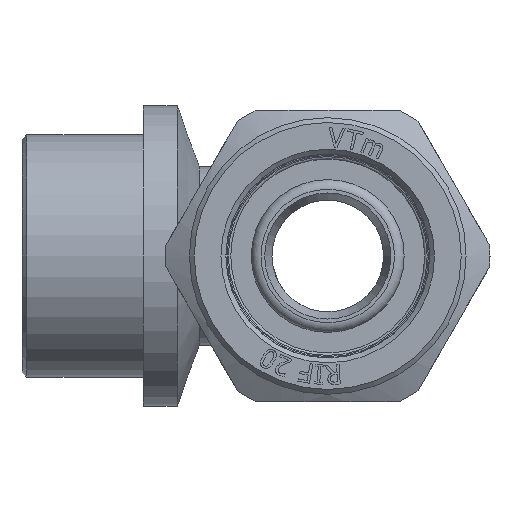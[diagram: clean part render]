
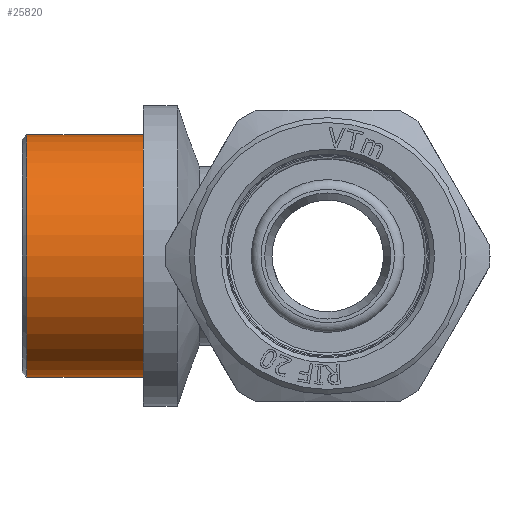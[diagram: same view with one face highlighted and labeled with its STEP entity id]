
A CAD part, left-side view. The second image highlights one B-rep face of the part: STEP entity #25820.
In plain terms, the highlighted cylindrical face has radius 12.5 mm (diameter 25 mm), a full revolution.
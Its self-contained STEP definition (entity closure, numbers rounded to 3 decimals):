
#1880=LINE('',#61873,#3563);
#3563=VECTOR('',#31161,12.5);
#3758=CYLINDRICAL_SURFACE('',#27040,12.5);
#6248=FACE_OUTER_BOUND('',#7747,.T.);
#7747=EDGE_LOOP('',(#24113,#24114,#24115,#24116,#24117,#24118));
#9903=CIRCLE('',#27041,12.5);
#9904=CIRCLE('',#27042,12.5);
#9905=CIRCLE('',#27043,12.5);
#9906=CIRCLE('',#27044,12.5);
#12559=VERTEX_POINT('',#61868);
#12560=VERTEX_POINT('',#61869);
#12561=VERTEX_POINT('',#61872);
#12562=VERTEX_POINT('',#61874);
#16448=EDGE_CURVE('',#12559,#12560,#9903,.T.);
#16449=EDGE_CURVE('',#12560,#12559,#9904,.T.);
#16450=EDGE_CURVE('',#12560,#12561,#1880,.T.);
#16451=EDGE_CURVE('',#12561,#12562,#9905,.T.);
#16452=EDGE_CURVE('',#12562,#12561,#9906,.T.);
#24113=ORIENTED_EDGE('',*,*,#16448,.F.);
#24114=ORIENTED_EDGE('',*,*,#16449,.F.);
#24115=ORIENTED_EDGE('',*,*,#16450,.T.);
#24116=ORIENTED_EDGE('',*,*,#16451,.T.);
#24117=ORIENTED_EDGE('',*,*,#16452,.T.);
#24118=ORIENTED_EDGE('',*,*,#16450,.F.);
#25820=ADVANCED_FACE('',(#6248),#3758,.T.);
#27040=AXIS2_PLACEMENT_3D('',#61867,#31155,#31156);
#27041=AXIS2_PLACEMENT_3D('',#61870,#31157,#31158);
#27042=AXIS2_PLACEMENT_3D('',#61871,#31159,#31160);
#27043=AXIS2_PLACEMENT_3D('',#61875,#31162,#31163);
#27044=AXIS2_PLACEMENT_3D('',#61876,#31164,#31165);
#31155=DIRECTION('center_axis',(0.,-1.,0.));
#31156=DIRECTION('ref_axis',(1.,0.,0.));
#31157=DIRECTION('center_axis',(0.,-1.,0.));
#31158=DIRECTION('ref_axis',(1.,0.,0.));
#31159=DIRECTION('center_axis',(0.,-1.,0.));
#31160=DIRECTION('ref_axis',(1.,0.,0.));
#31161=DIRECTION('',(0.,1.,0.));
#31162=DIRECTION('center_axis',(0.,-1.,0.));
#31163=DIRECTION('ref_axis',(1.,0.,0.));
#31164=DIRECTION('center_axis',(0.,-1.,0.));
#31165=DIRECTION('ref_axis',(1.,0.,0.));
#61867=CARTESIAN_POINT('Origin',(0.,25.,
0.));
#61868=CARTESIAN_POINT('',(12.5,19.,0.));
#61869=CARTESIAN_POINT('',(-12.5,19.,0.));
#61870=CARTESIAN_POINT('Origin',(0.,19.,
0.));
#61871=CARTESIAN_POINT('Origin',(0.,19.,
0.));
#61872=CARTESIAN_POINT('',(-12.5,31.,0.));
#61873=CARTESIAN_POINT('',(-12.5,25.,0.));
#61874=CARTESIAN_POINT('',(12.5,31.,0.));
#61875=CARTESIAN_POINT('Origin',(0.,31.,0.));
#61876=CARTESIAN_POINT('Origin',(0.,31.,0.));
